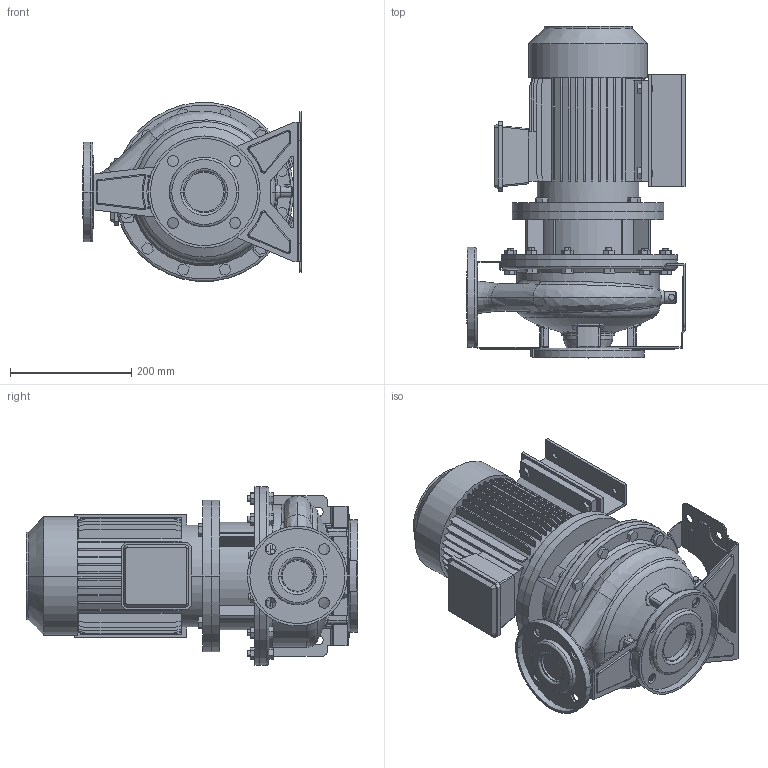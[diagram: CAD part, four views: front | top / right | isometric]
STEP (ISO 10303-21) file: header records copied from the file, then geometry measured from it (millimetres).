
FILE_DESCRIPTION((''),'2;1');
FILE_NAME('3S4_50-200_2_2_IE3_ASM','2016-09-23T',('rosa'),('"Ebara Pumps Europe +39.444.706811"'),'PRO/ENGINEER BY PARAMETRIC TECHNOLOGY CORPORATION, 2012130','PRO/ENGINEER BY PARAMETRIC TECHNOLOGY CORPORATION, 2012130','');
FILE_SCHEMA(('AUTOMOTIVE_DESIGN { 1 0 10303 214 1 1 1 1 }'));
Length unit declared in the file: millimetre
Products named in the file (12): MOTORE_100L_2_2_KW_4POLI_B35; SUPPORTO_3S_230_100_112; SOSTEGNO_72021; CORPO_50-200_AF0; ASP_50-200; FLANGIA_DIN_65; MAND_50-200; FLANGIA_DIN_50; BASE_3M_50-200; CORPO_SALDATO_50-200_ASM; M10X18; 3S4_50-200_2_2_IE3_ASM
Assembly tree (15 placements, depth 3):
  3S4_50-200_2_2_IE3_ASM
    MOTORE_100L_2_2_KW_4POLI_B35
    SUPPORTO_3S_230_100_112
    SOSTEGNO_72021  x2
    CORPO_SALDATO_50-200_ASM
      CORPO_50-200_AF0
      ASP_50-200
      FLANGIA_DIN_65
      MAND_50-200
      FLANGIA_DIN_50
      BASE_3M_50-200
    M10X18  x4
Bounding box: 360 x 548 x 295.13 mm (x, y, z)
Volume: 15967049.4 mm3; surface area: 1560477.7 mm2
Topology: 17 solids, 17 shells, 1234 faces, 3129 edges, 2050 vertices
Faces by surface type: plane 751, cylinder 337, torus 62, cone 48, bspline 30, sphere 6
Entity records: 48893 total; most frequent: CARTESIAN_POINT 9076, DIRECTION 6028, ORIENTED_EDGE 5874, PRESENTATION_STYLE_ASSIGNMENT 2950, STYLED_ITEM 2950, CURVE_STYLE 2937, EDGE_CURVE 2937, AXIS2_PLACEMENT_3D 2043
